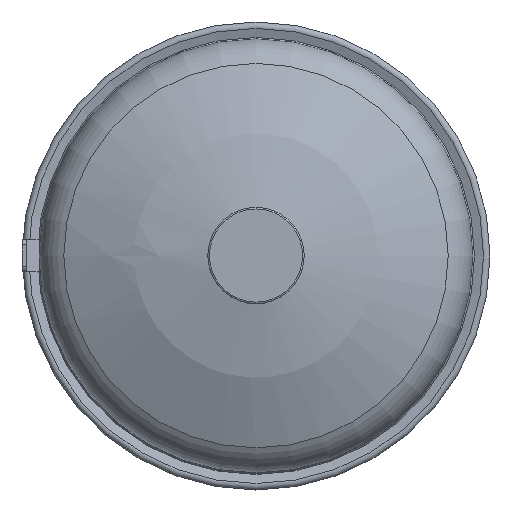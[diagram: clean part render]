
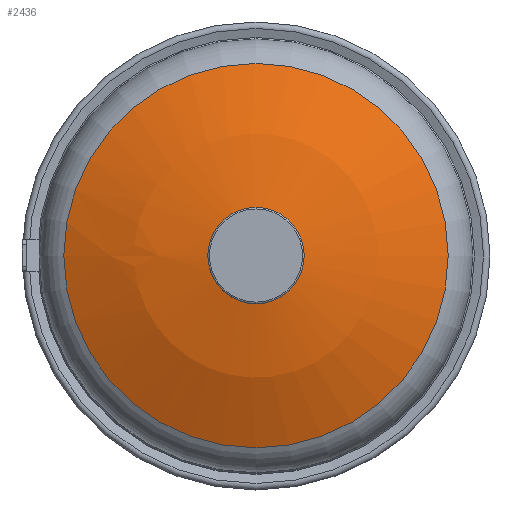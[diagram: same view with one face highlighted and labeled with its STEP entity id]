
A CAD part, top view. The second image highlights one B-rep face of the part: STEP entity #2436.
In plain terms, the highlighted spherical face has radius 402.55 mm.
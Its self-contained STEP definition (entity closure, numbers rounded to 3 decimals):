
#22=SPHERICAL_SURFACE('',#2619,402.55);
#180=FACE_OUTER_BOUND('',#317,.T.);
#317=EDGE_LOOP('',(#1790,#1791,#1792,#1793,#1794,#1795));
#940=CIRCLE('',#2617,45.);
#941=CIRCLE('',#2618,45.);
#942=CIRCLE('',#2620,402.55);
#943=CIRCLE('',#2621,179.475);
#944=CIRCLE('',#2622,179.475);
#1086=VERTEX_POINT('',#3721);
#1087=VERTEX_POINT('',#3723);
#1088=VERTEX_POINT('',#3727);
#1089=VERTEX_POINT('',#3729);
#1355=EDGE_CURVE('',#1086,#1087,#940,.T.);
#1356=EDGE_CURVE('',#1087,#1086,#941,.T.);
#1357=EDGE_CURVE('',#1086,#1088,#942,.T.);
#1358=EDGE_CURVE('',#1088,#1089,#943,.T.);
#1359=EDGE_CURVE('',#1089,#1088,#944,.T.);
#1790=ORIENTED_EDGE('',*,*,#1356,.F.);
#1791=ORIENTED_EDGE('',*,*,#1355,.F.);
#1792=ORIENTED_EDGE('',*,*,#1357,.T.);
#1793=ORIENTED_EDGE('',*,*,#1358,.T.);
#1794=ORIENTED_EDGE('',*,*,#1359,.T.);
#1795=ORIENTED_EDGE('',*,*,#1357,.F.);
#2436=ADVANCED_FACE('',(#180),#22,.T.);
#2617=AXIS2_PLACEMENT_3D('',#3724,#2971,#2972);
#2618=AXIS2_PLACEMENT_3D('',#3725,#2973,#2974);
#2619=AXIS2_PLACEMENT_3D('',#3726,#2975,#2976);
#2620=AXIS2_PLACEMENT_3D('',#3728,#2977,#2978);
#2621=AXIS2_PLACEMENT_3D('',#3730,#2979,#2980);
#2622=AXIS2_PLACEMENT_3D('',#3731,#2981,#2982);
#2971=DIRECTION('center_axis',(0.,0.,1.));
#2972=DIRECTION('ref_axis',(1.,0.,0.));
#2973=DIRECTION('center_axis',(0.,0.,1.));
#2974=DIRECTION('ref_axis',(1.,0.,0.));
#2975=DIRECTION('center_axis',(0.,0.,1.));
#2976=DIRECTION('ref_axis',(1.,0.,0.));
#2977=DIRECTION('center_axis',(0.,-1.,0.));
#2978=DIRECTION('ref_axis',(-1.,0.,0.));
#2979=DIRECTION('center_axis',(0.,0.,1.));
#2980=DIRECTION('ref_axis',(1.,0.,0.));
#2981=DIRECTION('center_axis',(0.,0.,1.));
#2982=DIRECTION('ref_axis',(1.,0.,0.));
#3721=CARTESIAN_POINT('',(-45.,0.,468.129));
#3723=CARTESIAN_POINT('',(45.,0.,468.129));
#3724=CARTESIAN_POINT('Origin',(0.,0.,468.129));
#3725=CARTESIAN_POINT('Origin',(0.,0.,468.129));
#3726=CARTESIAN_POINT('Origin',(0.,0.,68.103));
#3727=CARTESIAN_POINT('',(-179.475,0.,428.429));
#3728=CARTESIAN_POINT('Origin',(0.,0.,68.103));
#3729=CARTESIAN_POINT('',(179.475,0.,428.429));
#3730=CARTESIAN_POINT('Origin',(0.,0.,428.429));
#3731=CARTESIAN_POINT('Origin',(0.,0.,428.429));
